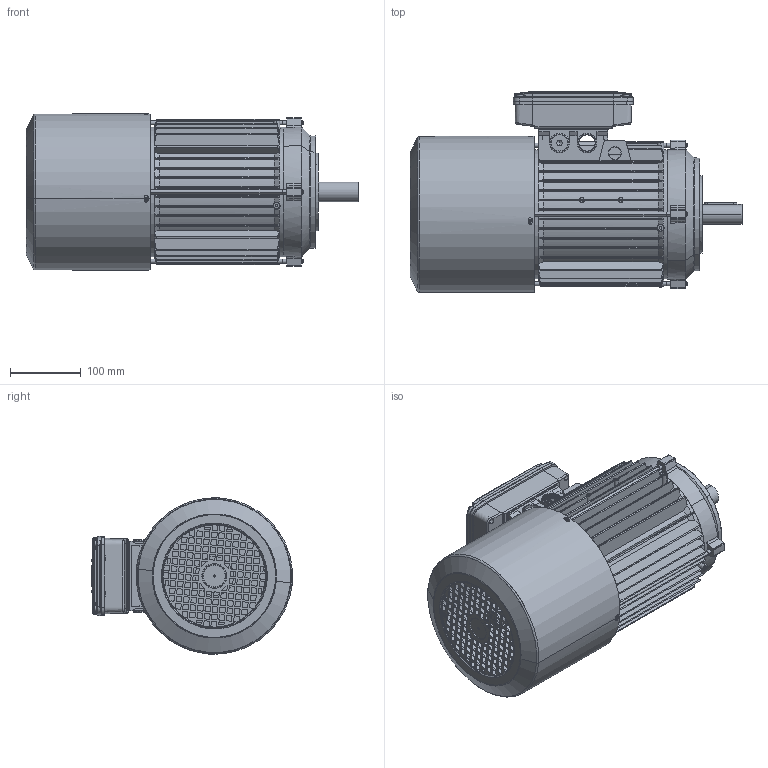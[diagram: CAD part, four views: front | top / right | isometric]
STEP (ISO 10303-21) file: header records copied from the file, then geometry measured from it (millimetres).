
FILE_DESCRIPTION (( 'STEP AP214' ), '1' );
FILE_NAME ('M14HC0011.STEP', '2018-12-06T16:56:37', ( '' ), ( '' ), 'SwSTEP 2.0', 'SolidWorks 2018', '' );
FILE_SCHEMA (( 'AUTOMOTIVE_DESIGN' ));
Length unit declared in the file: millimetre
Products named in the file (13): Vite  a testa bombata M4x16; Coperchio per Scatola per Morsettiera Doppia 90-100-112; Scatola per Morsettiera Doppia 90-100-112; Chiavetta 100-112; Albero BM 112; Cuffia BM 112; Tirante SM 112; Scudo Lato Freno P1 BM 112 - DFAN0101; Scudo a Flangia B14 112 - DFAC0194 LAVORATO; Carcassa 112 B5; M14HC0011; Scatola per Morsettiera Doppia 90-100-112 - Completa; Guarnizione Coperchio Semplice Scatola BA 90 100 112 - DDAL0094
Assembly tree (18 placements, depth 3):
  M14HC0011
    Carcassa 112 B5
    Scudo a Flangia B14 112 - DFAC0194 LAVORATO
    Scudo Lato Freno P1 BM 112 - DFAN0101
    Tirante SM 112  x4
    Cuffia BM 112
    Albero BM 112
    Chiavetta 100-112
    Scatola per Morsettiera Doppia 90-100-112 - Completa
      Scatola per Morsettiera Doppia 90-100-112
      Coperchio per Scatola per Morsettiera Doppia 90-100-112
      Vite  a testa bombata M4x16  x4
      Guarnizione Coperchio Semplice Scatola BA 90 100 112 - DDAL0094
Bounding box: 470.25 x 284.69 x 221.38 mm (x, y, z)
Volume: 2118016 mm3; surface area: 1154850.1 mm2
Topology: 21 solids, 21 shells, 3487 faces, 9424 edges, 5990 vertices
Faces by surface type: cylinder 1435, plane 1240, torus 315, cone 249, bspline 248
Entity records: 130500 total; most frequent: CARTESIAN_POINT 43418, ORIENTED_EDGE 17700, DIRECTION 16410, EDGE_CURVE 8850, AXIS2_PLACEMENT_3D 6058, VERTEX_POINT 5666, LINE 4294, VECTOR 4294
